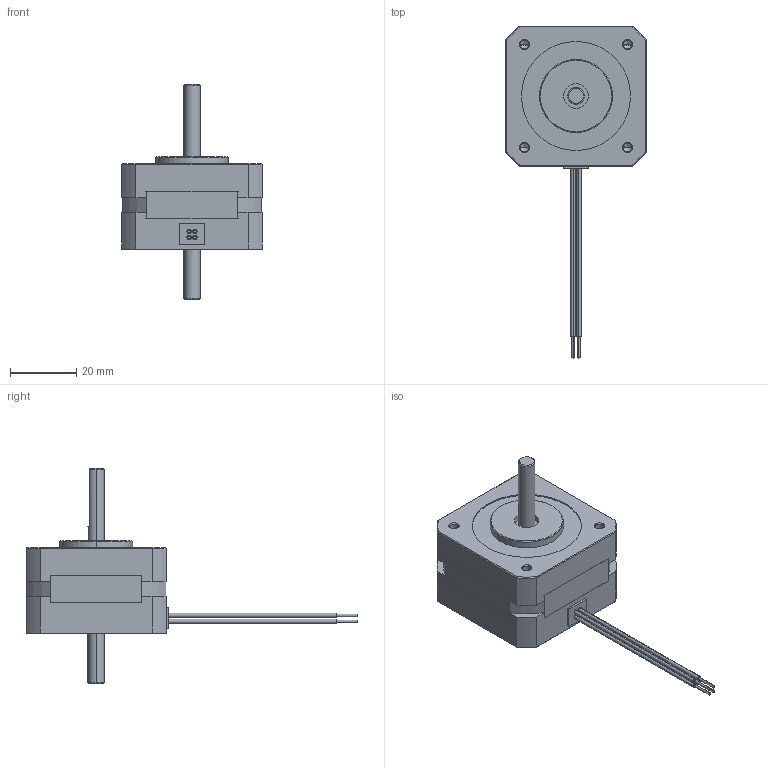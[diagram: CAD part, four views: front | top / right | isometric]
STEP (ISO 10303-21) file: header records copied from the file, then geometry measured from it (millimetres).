
FILE_DESCRIPTION (( 'STEP AP214' ), '1' );
FILE_NAME ('17Y002D-LW4.STEP', '2010-05-11T20:52:04', ( 'Tim Raines' ), ( 'Anaheim Automation' ), 'SwSTEP 2.0', 'SolidWorks 2010', '' );
FILE_SCHEMA (( 'AUTOMOTIVE_DESIGN' ));
Length unit declared in the file: inch
Products named in the file (1): 17Y002D-LW4
Bounding box: 42.16 x 99.95 x 64.87 mm (x, y, z)
Volume: 46253.4 mm3; surface area: 10305.5 mm2
Topology: 1 solids, 1 shells, 244 faces, 577 edges, 358 vertices
Faces by surface type: plane 113, cylinder 76, cone 47, torus 8
Entity records: 9993 total; most frequent: DIRECTION 1242, CARTESIAN_POINT 1222, ORIENTED_EDGE 1130, EDGE_CURVE 565, AXIS2_PLACEMENT_3D 450, VERTEX_POINT 358, VECTOR 342, LINE 342
